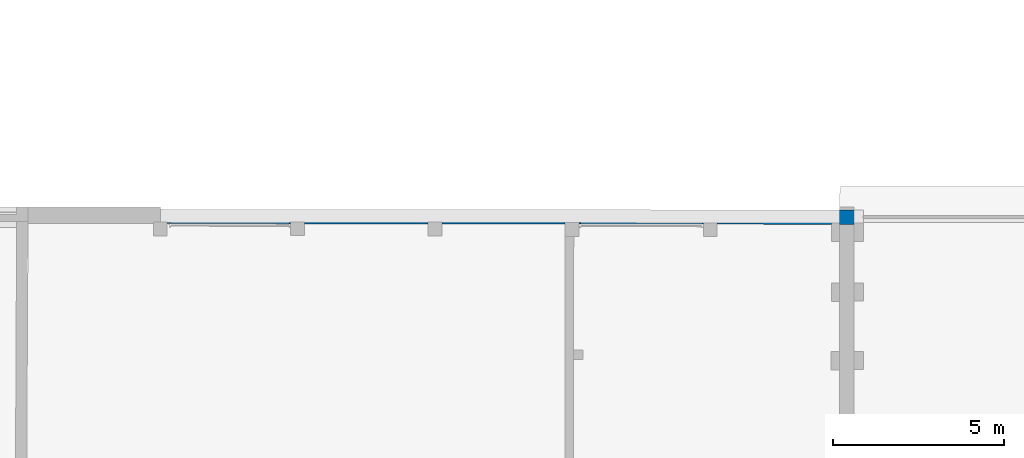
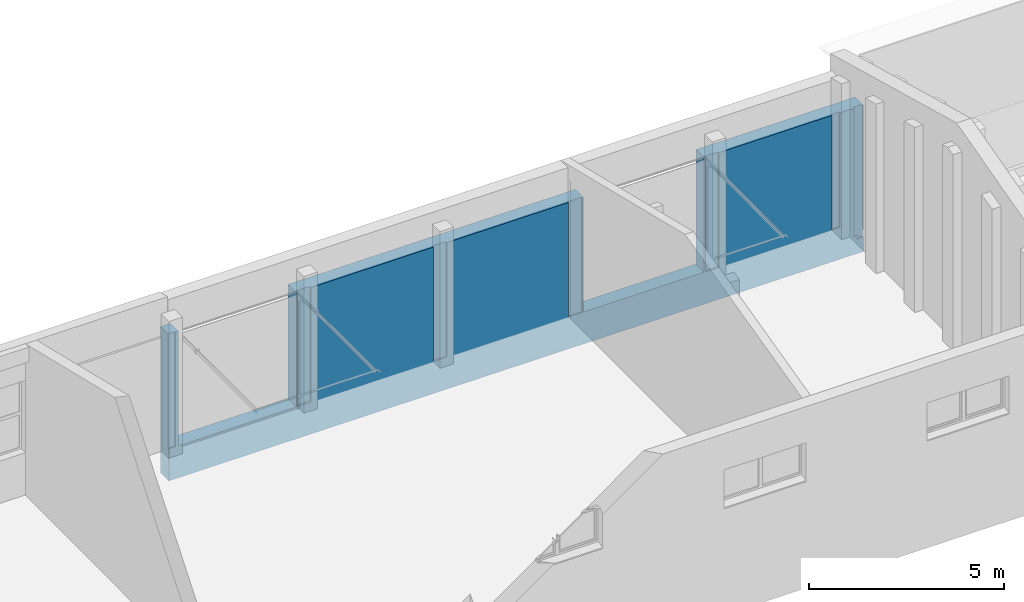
# One storey, part 165 of 301: 1 wall, 2 openings.
"""IFC2X3 building model written with IfcOpenShell, lengths in millimetres."""

from ifc_helpers import new_model, entity, si_unit, converted_unit, derived_unit, money_unit, direction, frame, origin_with_axes, place, context, subcontext, project, spatial, faceted_brep, material, type_object, element, save


model = new_model("IFC2X3")

# Units and contexts
model_context = context("Model", 3, precision=0.01, world=origin_with_axes(), true_north=direction((0.0, 1.0)))
body_context = subcontext(model_context, "Body", "Model", "MODEL_VIEW")
ifc_project = project(units=[si_unit("LENGTHUNIT", "METRE", prefix="MILLI"), si_unit("AREAUNIT", "SQUARE_METRE"), si_unit("VOLUMEUNIT", "CUBIC_METRE"), converted_unit("PLANEANGLEUNIT", "DEGREE", entity("IfcPlaneAngleMeasure", 0.0174532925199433), si_unit("PLANEANGLEUNIT", "RADIAN"), dimensions=[0, 0, 0, 0, 0, 0, 0]), money_unit("EUR"), converted_unit("TIMEUNIT", "Year", entity("IfcTimeMeasure", 31557600.0), si_unit("TIMEUNIT", "SECOND"), dimensions=[0, 0, 1, 0, 0, 0, 0]), si_unit("MASSUNIT", "GRAM", prefix="KILO"), si_unit("THERMODYNAMICTEMPERATUREUNIT", "DEGREE_CELSIUS"), si_unit("LUMINOUSINTENSITYUNIT", "LUMEN"), si_unit("ENERGYUNIT", "JOULE", prefix="MEGA"), derived_unit("THERMALCONDUCTANCEUNIT", [(si_unit("POWERUNIT", "WATT"), 1), (si_unit("LENGTHUNIT", "METRE"), -1), (si_unit("THERMODYNAMICTEMPERATUREUNIT", "KELVIN"), -1)]), derived_unit("SPECIFICHEATCAPACITYUNIT", [(si_unit("ENERGYUNIT", "JOULE"), 1), (si_unit("MASSUNIT", "GRAM", prefix="KILO"), -1), (si_unit("THERMODYNAMICTEMPERATUREUNIT", "KELVIN"), -1)]), derived_unit("MASSDENSITYUNIT", [(si_unit("MASSUNIT", "GRAM", prefix="KILO"), 1), (si_unit("VOLUMEUNIT", "CUBIC_METRE"), -1)])], contexts=[model_context])

# Site, building, storey
site_placement = place(None, frame((0.0, 0.0, 8650.0), z_axis=(0.0, 0.0, 1.0), x_axis=(1.0, 0.0, 0.0)))
site = spatial("IfcSite", under=ifc_project, at=site_placement, Name="43301:001:0844", CompositionType="ELEMENT")
building_placement = place(site_placement, origin_with_axes())
building = spatial("IfcBuilding", under=site, at=building_placement, Name="Kuressaare Ametikooli tuulikute mehaanikute õppekorpus", CompositionType="ELEMENT")
storey_placement = place(building_placement, origin_with_axes())
storey = spatial("IfcBuildingStorey", under=building, at=storey_placement, Name="1.korrus", CompositionType="ELEMENT", Elevation=0.0)

# Wall, openings
ifc_material = material(Name="GENEERILINE - KONSTRUKTRIOON")
wall_type = type_object("IfcWallType", Name="GENEERILINE - KONSTRUKTRIOON 420", PredefinedType="NOTDEFINED")
wall_placement = place(storey_placement, frame((200955.7342529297, 26209.98954772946, -1000.0), z_axis=(0.0, 0.0, 1.0), x_axis=(-0.9999994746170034, 0.001025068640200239, 0.0)))
wall = element("IfcWall", 1, at=wall_placement, inside=storey, type_object=wall_type, material=ifc_material, Name="VS-XX", context=body_context, shape_type="Brep", body=[
    faceted_brep([(20234.60275661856, 0.0, 1000.0), (16754.60275661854, 0.0, 1000.0), (16754.60275661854, 0.0, 4580.0), (8265.167195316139, 0.0, 4580.0), (8265.167195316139, 0.0, 1000.0), (4705.167195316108, 0.0, 1000.0), (4705.167195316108, 0.0, 4580.0), (0.0, 0.0, 4580.0), (0.0, 0.0, 0.0), (20522.1317828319, 0.0, 0.0), (20522.1317828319, 0.0, 4580.0), (20234.60275661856, 0.0, 4580.0), (20234.60275661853, 419.9999999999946, 1000.0), (16754.60275661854, 419.9999999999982, 1000.0), (16754.60275661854, 419.9999999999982, 4580.0), (16723.34056891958, 419.9999999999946, 4580.0), (16723.27779546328, 362.0976559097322, 4580.0), (16323.27803052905, 362.5313061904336, 4580.0), (16323.34033385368, 419.9999999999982, 4580.0), (12708.2538419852, 420.0000000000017, 4580.0), (12708.19573426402, 366.4013380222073, 4580.0), (12308.1959693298, 366.8349883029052, 4580.0), (12308.25360691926, 419.9999999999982, 4580.0), (8706.42512225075, 419.9999999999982, 4580.0), (8706.42512225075, 380.0000000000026, 4580.0), (8306.425122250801, 379.999999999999, 4580.0), (8306.425122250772, 419.9999999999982, 4580.0), (8265.16719531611, 419.9999999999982, 4580.0), (8265.16719531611, 419.9999999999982, 1000.0), (4705.167195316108, 419.9999999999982, 1000.0), (4705.167195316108, 419.9999999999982, 4580.0), (0.4485311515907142, 420.0000000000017, 4580.0), (0.0, 420.0000000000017, 4580.0), (4669.909063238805, 419.9999999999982, 4580.0), (4669.909063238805, 380.0000000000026, 4580.0), (4269.909063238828, 380.0000000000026, 4580.0), (4269.9090632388, 419.9999999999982, 4580.0), (931.6854313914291, 420.0000000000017, 4580.0), (931.7261822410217, 380.2457566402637, 4580.0), (691.7237366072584, 379.9997375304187, 4580.0), (691.6827335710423, 419.9999999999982, 4580.0), (271.6835665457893, 420.0000000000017, 4580.0), (271.7242840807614, 380.2782565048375, 4580.0), (0.4895336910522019, 380.0002221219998, 4580.0), (0.0, 367.4275635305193, 469.9999999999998), (0.0, 420.0000000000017, 469.9999999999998), (0.0, 420.0000000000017, 0.0), (0.0, 420.0000000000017, 669.9999999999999), (0.0, 367.4275635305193, 669.9999999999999), (20522.13178283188, 419.9999999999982, 0.0), (20522.13178283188, 377.7264419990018, 4580.0), (20522.13178283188, 419.9999999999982, 799.9999999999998), (20522.13178283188, 418.0376983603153, 799.9999999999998), (20522.13178283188, 418.0376983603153, 1000.0), (20522.13178283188, 377.7264419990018, 1000.0), (20234.60275661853, 419.9999999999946, 4580.0), (20327.77483972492, 377.9371494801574, 4580.0), (20327.82044116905, 419.9999999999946, 4580.0), (20327.82044116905, 419.9999999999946, 1000.0), (20521.6628826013, 419.9999999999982, 1000.0), (20521.6628826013, 419.9999999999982, 799.9999999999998), (271.6835665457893, 419.9999999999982, 469.9999999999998), (271.6835665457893, 419.9999999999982, 549.9999999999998), (271.6835665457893, 419.9999999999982, 669.9999999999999), (691.6827335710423, 419.9999999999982, 1000.0), (931.6854313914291, 419.9999999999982, 1000.0), (4269.9090632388, 419.9999999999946, 1000.0), (4669.909063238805, 419.9999999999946, 1000.0), (8306.425122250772, 419.9999999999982, 1000.0), (8706.42512225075, 419.9999999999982, 1000.0), (12308.25360691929, 419.9999999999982, 1000.0), (12708.2538419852, 419.9999999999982, 1000.0), (16323.34033385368, 419.9999999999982, 1000.0), (16723.34056891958, 419.9999999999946, 1000.0), (16723.27779546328, 362.0976559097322, 1000.0), (16323.27803052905, 362.5313061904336, 1000.0), (12708.19573426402, 366.4013380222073, 1000.0), (12308.1959693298, 366.8349883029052, 1000.0), (8706.42512225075, 380.0000000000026, 1000.0), (8306.425122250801, 379.999999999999, 1000.0), (0.4485311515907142, 420.0000000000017, 669.9999999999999), (4669.909063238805, 380.0000000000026, 1000.0), (4269.909063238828, 380.0000000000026, 1000.0), (931.7261822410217, 380.2457566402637, 1000.0), (691.7237366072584, 379.9997375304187, 1000.0), (271.7242840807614, 380.2782565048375, 549.9999999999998), (0.4895336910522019, 380.0002221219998, 669.9999999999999), (65.69644597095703, 380.0670637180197, 549.9999999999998), (65.69644597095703, 380.0670637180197, 669.9999999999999), (0.502420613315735, 367.4284635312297, 469.9999999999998), (0.502420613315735, 367.4284635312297, 669.9999999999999), (20521.662688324, 418.0372175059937, 799.9999999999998), (20521.662688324, 418.0372175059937, 1000.0), (20327.77483972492, 377.9371494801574, 1000.0)], [[[0, 1, 2, 3, 4, 5, 6, 7, 8, 9, 10, 11]], [[1, 0, 12, 13]], [[14, 2, 1, 13]], [[2, 14, 15, 16, 17, 18, 19, 20, 21, 22, 23, 24, 25, 26, 27, 3]], [[3, 27, 28, 4]], [[4, 28, 29, 5]], [[6, 5, 29, 30]], [[31, 32, 7, 6, 30, 33, 34, 35, 36, 37, 38, 39, 40, 41, 42, 43]], [[44, 45, 46, 8, 7, 32, 47, 48]], [[46, 49, 9, 8]], [[50, 10, 9, 49, 51, 52, 53, 54]], [[55, 11, 10, 50, 56, 57]], [[0, 11, 55, 12]], [[12, 55, 57, 58, 59, 60, 51, 49, 46, 45, 61, 62, 63, 41, 40, 64, 65, 37, 36, 66, 67, 33, 30, 29, 28, 27, 26, 68, 69, 23, 22, 70, 71, 19, 18, 72, 73, 15, 14, 13]], [[15, 73, 74, 16]], [[16, 74, 75, 17]], [[17, 75, 72, 18]], [[19, 71, 76, 20]], [[20, 76, 77, 21]], [[21, 77, 70, 22]], [[23, 69, 78, 24]], [[24, 78, 79, 25]], [[25, 79, 68, 26]], [[80, 47, 32, 31]], [[33, 67, 81, 34]], [[34, 81, 82, 35]], [[35, 82, 66, 36]], [[37, 65, 83, 38]], [[38, 83, 84, 39]], [[39, 84, 64, 40]], [[62, 85, 42, 41, 63]], [[86, 43, 42, 85, 87, 88]], [[43, 86, 80, 31]], [[45, 44, 89, 61]], [[80, 86, 88, 90, 48, 47]], [[44, 48, 90, 89]], [[51, 60, 91, 52]], [[53, 52, 91, 92]], [[92, 59, 58, 93, 54, 53]], [[50, 54, 93, 56]], [[56, 93, 58, 57]], [[92, 91, 60, 59]], [[88, 87, 62, 61, 89, 90]], [[64, 84, 83, 65]], [[66, 82, 81, 67]], [[68, 79, 78, 69]], [[70, 77, 76, 71]], [[72, 75, 74, 73]], [[85, 62, 87]]]),
])
opening_1_placement = place(wall_placement, frame((6485.167195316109, 0.0, 1000.0), z_axis=(0.0, 0.0, 1.0), x_axis=(1.0, 0.0, 0.0)))
element("IfcOpeningElement", 2, at=opening_1_placement, cuts=wall, context=body_context, shape_type="Brep", body=[
    faceted_brep([(1780.000000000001, 442.0365826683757, 3580.0), (1780.000000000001, 442.0365826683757, 0.0), (-1780.000000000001, 442.0365826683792, 0.0), (-1780.000000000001, 442.0365826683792, 3580.0), (1780.000000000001, -22.03658266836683, 3580.0), (1780.000000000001, -22.03658266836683, 0.0), (-1780.000000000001, -22.03658266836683, 0.0), (-1780.000000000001, -22.03658266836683, 3580.0)], [[[0, 1, 2, 3]], [[4, 5, 1, 0]], [[5, 6, 2, 1]], [[6, 7, 3, 2]], [[7, 4, 0, 3]], [[6, 5, 4, 7]]]),
])
opening_2_placement = place(wall_placement, frame((18494.60275661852, 0.0, 1000.0), z_axis=(0.0, 0.0, 1.0), x_axis=(1.0, 0.0, 0.0)))
element("IfcOpeningElement", 3, at=opening_2_placement, cuts=wall, context=body_context, shape_type="Brep", body=[
    faceted_brep([(1740.000000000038, 442.0365826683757, 3580.0), (1740.000000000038, 442.0365826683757, 0.0), (-1740.000000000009, 442.0365826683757, 0.0), (-1740.000000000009, 442.0365826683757, 3580.0), (1740.000000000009, -22.03658266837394, 3580.0), (1740.000000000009, -22.03658266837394, 0.0), (-1739.999999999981, -22.03658266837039, 0.0), (-1739.999999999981, -22.03658266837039, 3580.0)], [[[0, 1, 2, 3]], [[4, 5, 1, 0]], [[5, 6, 2, 1]], [[6, 7, 3, 2]], [[7, 4, 0, 3]], [[6, 5, 4, 7]]]),
])

save(model, "model.ifc")
